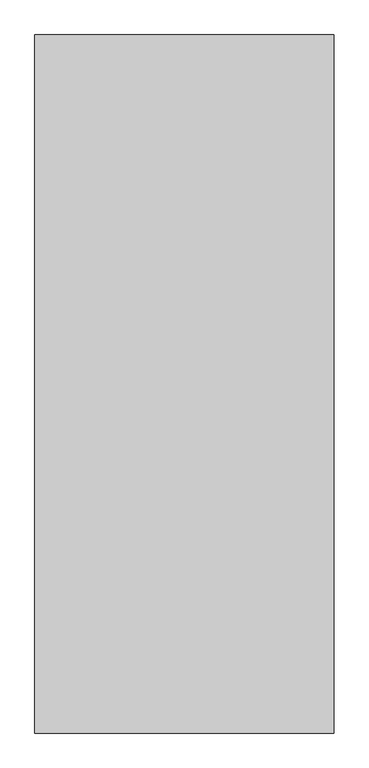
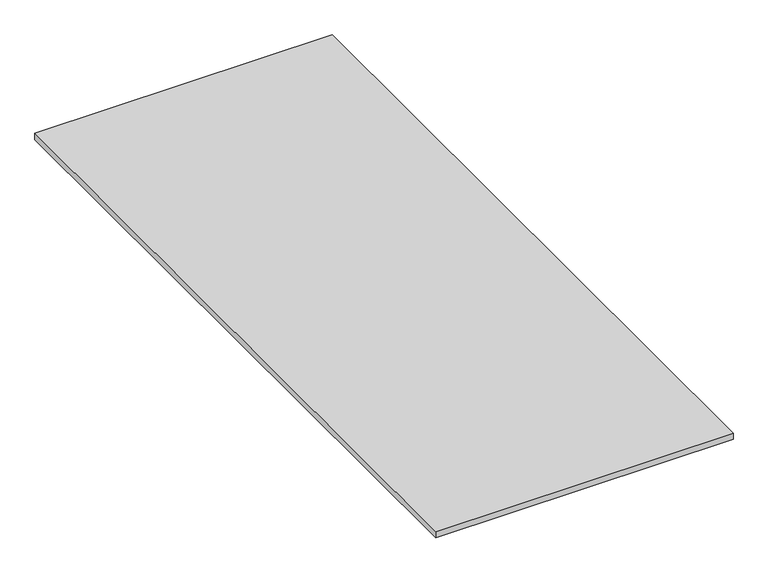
"""IFC4 building model written with IfcOpenShell, lengths in millimetres: proxy geometry, Base de duche12 : Base de duche."""

from ifc_helpers import new_model, si_unit, origin, origin_with_axes, place, context, project, spatial, polyline, outline, extrude, source, transform, mapped, element, save


def generic_models_8cb8f1ab(model_context):
    return source(origin(), model_context, "Body", "SweptSolid", [
        extrude(outline(polyline([(18621.7572882, 22026.5765577), (18621.7572882, 19926.5765577), (17721.7572882, 19926.5765577), (17721.7572882, 22026.5765577), (18621.7572882, 22026.5765577)])), origin_with_axes(), (0.0, 0.0, 1.0), 20.0),
    ])


if __name__ == "__main__":
    model = new_model("IFC4")
    model_context = context("Model", 3, world=origin())
    ifc_project = project(units=[si_unit("LENGTHUNIT", "METRE", prefix="MILLI")], contexts=[model_context])
    site = spatial("IfcSite", under=ifc_project)
    building = spatial("IfcBuilding", under=site)
    placement = place(None, origin())
    generic_models_shape = generic_models_8cb8f1ab(model_context)
    element("IfcBuildingElementProxy", 1, Name="Base de duche12 : Base de duche", ObjectType="Base de duche12 : Base de duche", at=placement, inside=building, context=model_context, shape_type="MappedRepresentation", body=[
        mapped(generic_models_shape, transform((0.0, 0.0, 0.0), x_axis=(1.0, 0.0, 0.0), y_axis=(0.0, 1.0, 0.0), z_axis=(0.0, 0.0, 1.0))),
    ])
    save(model, "model.ifc")
